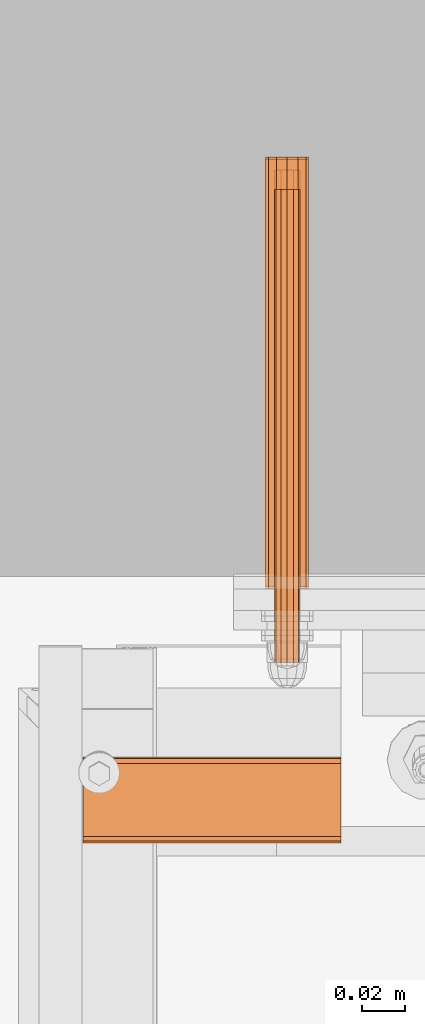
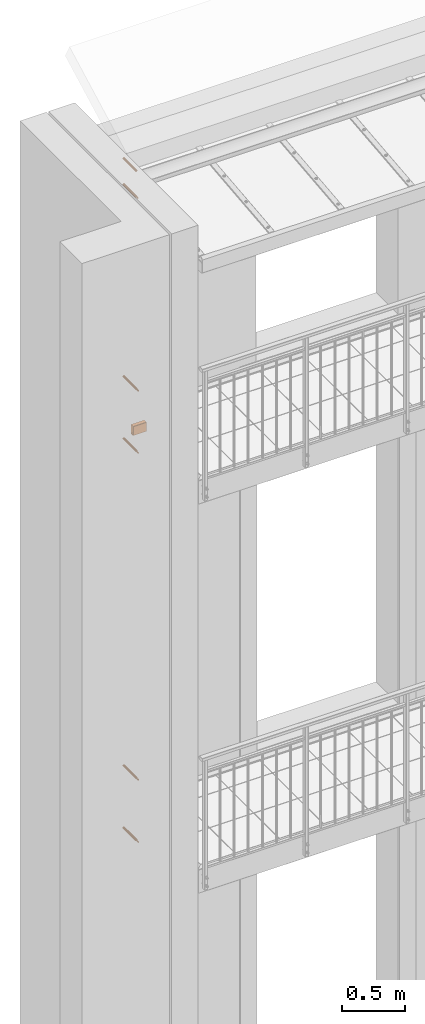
# One storey, part 93 of 162: 12 proxies.
"""IFC2X3 building model written with IfcOpenShell, lengths in millimetres."""

from ifc_helpers import new_model, entity, si_unit, converted_unit, origin_with_axes, place, context, project, spatial, faceted_brep, material, element, save


model = new_model("IFC2X3")

# Units and contexts
model_context = context("Model", 3, precision=1e-09, world=origin_with_axes())
ifc_project = project(units=[si_unit("LENGTHUNIT", "METRE", prefix="MILLI"), si_unit("AREAUNIT", "SQUARE_METRE"), si_unit("VOLUMEUNIT", "CUBIC_METRE"), converted_unit("PLANEANGLEUNIT", "DEGREE", entity("IfcPlaneAngleMeasure", 0.01745329), si_unit("PLANEANGLEUNIT", "RADIAN"), dimensions=[0, 0, 0, 0, 0, 0, 0])], contexts=[model_context])

# Site, building, storey
site_placement = place(None, origin_with_axes())
site = spatial("IfcSite", under=ifc_project, at=site_placement, Name="Hermannstra?e 1a, 60318 Frankfurt", CompositionType="ELEMENT")
building_placement = place(site_placement, origin_with_axes())
building = spatial("IfcBuilding", under=site, at=building_placement, Name="Struktur 1", CompositionType="ELEMENT")
storey_placement = place(building_placement, origin_with_axes())
storey = spatial("IfcBuildingStorey", under=building, at=storey_placement, Name="Default Storey", CompositionType="ELEMENT", Elevation=0.0)

# Proxies
ifc_material_1 = material(Name="Alu")
proxy_1_placement = place(None, origin_with_axes())
element("IfcBuildingElementProxy", 1, at=proxy_1_placement, inside=storey, material=ifc_material_1, ObjectType="-", context=model_context, shape_type="Brep", body=[
    faceted_brep([(2703.30936482, 2612.413221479, 15014.999), (2703.30936482, 2614.609373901, 15012.802847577), (2703.30936482, 2617.609373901, 15011.999), (2703.30936482, 2645.609373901, 15011.999), (2703.30936482, 2648.609373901, 15012.802847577), (2703.30936482, 2650.805526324, 15014.999), (2703.30936482, 2651.609373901, 15017.999), (2703.30936482, 2651.609373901, 15095.999), (2703.30936482, 2650.805526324, 15098.999), (2703.30936482, 2648.609373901, 15101.195152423), (2703.30936482, 2645.609373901, 15101.999), (2703.30936482, 2617.609373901, 15101.999), (2703.30936482, 2614.609373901, 15101.195152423), (2703.30936482, 2612.413221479, 15098.999), (2703.30936482, 2611.609373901, 15095.999), (2703.30936482, 2611.609373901, 15017.999), (2703.30936482, 2614.609373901, 15017.999), (2703.30936482, 2614.609373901, 15095.999), (2703.30936482, 2615.01129769, 15097.499), (2703.30936482, 2616.109373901, 15098.597076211), (2703.30936482, 2617.609373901, 15098.999), (2703.30936482, 2645.609373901, 15098.999), (2703.30936482, 2647.109373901, 15098.597076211), (2703.30936482, 2648.207450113, 15097.499), (2703.30936482, 2648.609373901, 15095.999), (2703.30936482, 2648.609373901, 15017.999), (2703.30936482, 2648.207450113, 15016.499), (2703.30936482, 2647.109373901, 15015.400923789), (2703.30936482, 2645.609373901, 15014.999), (2703.30936482, 2617.609373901, 15014.999), (2703.30936482, 2616.109373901, 15015.400923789), (2703.30936482, 2615.01129769, 15016.499), (2583.30936482, 2614.609373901, 15017.999), (2583.30936482, 2615.01129769, 15016.499), (2583.30936482, 2611.609373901, 15017.999), (2583.30936482, 2612.413221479, 15014.999), (2583.30936482, 2611.609373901, 15095.999), (2583.30936482, 2612.413221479, 15098.999), (2583.30936482, 2614.609373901, 15101.195152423), (2583.30936482, 2617.609373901, 15101.999), (2583.30936482, 2645.609373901, 15101.999), (2583.30936482, 2648.609373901, 15101.195152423), (2583.30936482, 2650.805526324, 15098.999), (2583.30936482, 2651.609373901, 15095.999), (2583.30936482, 2651.609373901, 15017.999), (2583.30936482, 2650.805526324, 15014.999), (2583.30936482, 2648.609373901, 15012.802847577), (2583.30936482, 2645.609373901, 15011.999), (2583.30936482, 2617.609373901, 15011.999), (2583.30936482, 2614.609373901, 15012.802847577), (2583.30936482, 2614.609373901, 15095.999), (2583.30936482, 2616.109373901, 15015.400923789), (2583.30936482, 2617.609373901, 15014.999), (2583.30936482, 2645.609373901, 15014.999), (2583.30936482, 2647.109373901, 15015.400923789), (2583.30936482, 2648.207450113, 15016.499), (2583.30936482, 2648.609373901, 15017.999), (2583.30936482, 2648.609373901, 15095.999), (2583.30936482, 2648.207450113, 15097.499), (2583.30936482, 2647.109373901, 15098.597076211), (2583.30936482, 2645.609373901, 15098.999), (2583.30936482, 2617.609373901, 15098.999), (2583.30936482, 2616.109373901, 15098.597076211), (2583.30936482, 2615.01129769, 15097.499)], [[[0, 1, 2, 3, 4, 5, 6, 7, 8, 9, 10, 11, 12, 13, 14, 15], [16, 17, 18, 19, 20, 21, 22, 23, 24, 25, 26, 27, 28, 29, 30, 31]], [[32, 16, 31, 33]], [[15, 34, 35, 0]], [[36, 37, 38, 39, 40, 41, 42, 43, 44, 45, 46, 47, 48, 49, 35, 34], [50, 32, 33, 51, 52, 53, 54, 55, 56, 57, 58, 59, 60, 61, 62, 63]], [[17, 16, 32, 50]], [[36, 34, 15, 14]], [[36, 14, 13, 37]], [[33, 31, 30, 51]], [[0, 35, 49, 1]], [[17, 50, 63, 18]], [[37, 13, 12, 38]], [[51, 30, 29, 52]], [[1, 49, 48, 2]], [[18, 63, 62, 19]], [[38, 12, 11, 39]], [[53, 52, 29, 28]], [[3, 2, 48, 47]], [[19, 62, 61, 20]], [[40, 39, 11, 10]], [[21, 20, 61, 60]], [[53, 28, 27, 54]], [[3, 47, 46, 4]], [[40, 10, 9, 41]], [[21, 60, 59, 22]], [[54, 27, 26, 55]], [[4, 46, 45, 5]], [[44, 6, 5, 45]], [[41, 9, 8, 42]], [[22, 59, 58, 23]], [[55, 26, 25, 56]], [[7, 6, 44, 43]], [[57, 24, 23, 58]], [[25, 24, 57, 56]], [[42, 8, 7, 43]]]),
])
ifc_material_2 = material(Name="Kunststoff")
proxy_2_placement = place(None, origin_with_axes())
element("IfcBuildingElementProxy", 2, at=proxy_2_placement, inside=storey, material=ifc_material_2, ObjectType="-", context=model_context, shape_type="Brep", body=[
    faceted_brep([(2669.649110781, 2929.609373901, 17471.999), (2673.309364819, 2929.609373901, 17475.659254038), (2678.309364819, 2929.609373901, 17476.999), (2683.309364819, 2929.609373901, 17475.659254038), (2686.969618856, 2929.609373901, 17471.999), (2688.309364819, 2929.609373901, 17466.999), (2686.969618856, 2929.609373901, 17461.999), (2683.309364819, 2929.609373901, 17458.338745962), (2678.309364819, 2929.609373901, 17456.999), (2673.309364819, 2929.609373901, 17458.338745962), (2669.649110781, 2929.609373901, 17461.999), (2668.309364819, 2929.609373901, 17466.999), (2678.309364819, 2729.609373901, 17456.999), (2673.309364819, 2729.609373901, 17458.338745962), (2683.309364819, 2729.609373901, 17458.338745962), (2686.969618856, 2729.609373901, 17461.999), (2686.969618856, 2729.609373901, 17471.999), (2683.309364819, 2729.609373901, 17475.659254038), (2688.309364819, 2729.609373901, 17466.999), (2678.309364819, 2729.609373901, 17476.999), (2673.309364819, 2729.609373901, 17475.659254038), (2669.649110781, 2729.609373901, 17471.999), (2668.309364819, 2729.609373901, 17466.999), (2669.649110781, 2729.609373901, 17461.999), (2682.559364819, 2729.609373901, 17474.360215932), (2685.670580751, 2729.609373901, 17471.249), (2686.809364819, 2729.609373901, 17466.999), (2685.670580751, 2729.609373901, 17462.749), (2682.559364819, 2729.609373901, 17459.637784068), (2678.309364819, 2729.609373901, 17458.499), (2674.059364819, 2729.609373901, 17459.637784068), (2670.948148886, 2729.609373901, 17462.749), (2669.809364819, 2729.609373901, 17466.999), (2670.948148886, 2729.609373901, 17471.249), (2674.059364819, 2729.609373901, 17474.360215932), (2678.309364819, 2729.609373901, 17475.499), (2682.559364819, 2927.609373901, 17474.360215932), (2678.309364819, 2927.609373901, 17475.499), (2685.670580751, 2927.609373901, 17471.249), (2678.309364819, 2927.609373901, 17458.499), (2674.059364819, 2927.609373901, 17459.637784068), (2682.559364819, 2927.609373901, 17459.637784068), (2670.948148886, 2927.609373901, 17462.749), (2685.670580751, 2927.609373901, 17462.749), (2686.809364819, 2927.609373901, 17466.999), (2674.059364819, 2927.609373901, 17474.360215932), (2670.948148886, 2927.609373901, 17471.249), (2669.809364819, 2927.609373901, 17466.999)], [[[0, 1, 2, 3, 4, 5, 6, 7, 8, 9, 10, 11]], [[8, 12, 13, 9]], [[7, 14, 12, 8]], [[6, 15, 14, 7]], [[16, 4, 3, 17]], [[5, 18, 15, 6]], [[17, 3, 2, 19]], [[18, 16, 17, 19, 20, 21, 22, 23, 13, 12, 14, 15], [24, 25, 26, 27, 28, 29, 30, 31, 32, 33, 34, 35]], [[18, 5, 4, 16]], [[9, 13, 23, 10]], [[19, 2, 1, 20]], [[36, 24, 35, 37]], [[24, 36, 38, 25]], [[29, 39, 40, 30]], [[39, 29, 28, 41]], [[42, 40, 39, 41, 43, 44, 38, 36, 37, 45, 46, 47]], [[10, 23, 22, 11]], [[20, 1, 0, 21]], [[37, 35, 34, 45]], [[27, 43, 41, 28]], [[26, 44, 43, 27]], [[25, 38, 44, 26]], [[11, 22, 21, 0]], [[30, 40, 42, 31]], [[45, 34, 33, 46]], [[31, 42, 47, 32]], [[46, 33, 32, 47]]]),
])
ifc_material_3 = material(Name="A4")
proxy_3_placement = place(None, origin_with_axes())
element("IfcBuildingElementProxy", 3, at=proxy_3_placement, inside=storey, material=ifc_material_3, ObjectType="-", context=model_context, shape_type="Brep", body=[
    faceted_brep([(2678.309364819, 2704.609373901, 17222.999), (2678.309364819, 2924.609373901, 17222.999), (2675.309364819, 2924.609373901, 17222.195152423), (2675.309364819, 2704.609373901, 17222.195152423), (2681.309364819, 2704.609373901, 17222.195152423), (2681.309364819, 2924.609373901, 17222.195152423), (2681.309364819, 2704.609373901, 17211.802847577), (2683.505517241, 2704.609373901, 17213.999), (2684.309364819, 2704.609373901, 17216.999), (2683.505517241, 2704.609373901, 17219.999), (2673.113212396, 2704.609373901, 17219.999), (2672.309364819, 2704.609373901, 17216.999), (2673.113212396, 2704.609373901, 17213.999), (2675.309364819, 2704.609373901, 17211.802847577), (2678.309364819, 2704.609373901, 17210.999), (2675.309364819, 2924.609373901, 17211.802847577), (2673.113212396, 2924.609373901, 17213.999), (2672.309364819, 2924.609373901, 17216.999), (2673.113212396, 2924.609373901, 17219.999), (2683.505517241, 2924.609373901, 17219.999), (2684.309364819, 2924.609373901, 17216.999), (2683.505517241, 2924.609373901, 17213.999), (2681.309364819, 2924.609373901, 17211.802847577), (2678.309364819, 2924.609373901, 17210.999)], [[[0, 1, 2, 3]], [[1, 0, 4, 5]], [[6, 7, 8, 9, 4, 0, 3, 10, 11, 12, 13, 14]], [[15, 16, 17, 18, 2, 1, 5, 19, 20, 21, 22, 23]], [[3, 2, 18, 10]], [[5, 4, 9, 19]], [[17, 11, 10, 18]], [[16, 12, 11, 17]], [[19, 9, 8, 20]], [[13, 15, 23, 14]], [[12, 16, 15, 13]], [[14, 23, 22, 6]], [[20, 8, 7, 21]], [[6, 22, 21, 7]]]),
])
proxy_4_placement = place(None, origin_with_axes())
element("IfcBuildingElementProxy", 4, at=proxy_4_placement, inside=storey, material=ifc_material_2, ObjectType="-", context=model_context, shape_type="Brep", body=[
    faceted_brep([(2673.309364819, 2929.609373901, 17208.338745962), (2669.649110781, 2929.609373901, 17211.999), (2668.309364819, 2929.609373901, 17216.999), (2669.649110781, 2929.609373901, 17221.999), (2673.309364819, 2929.609373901, 17225.659254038), (2678.309364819, 2929.609373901, 17226.999), (2683.309364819, 2929.609373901, 17225.659254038), (2686.969618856, 2929.609373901, 17221.999), (2688.309364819, 2929.609373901, 17216.999), (2686.969618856, 2929.609373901, 17211.999), (2683.309364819, 2929.609373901, 17208.338745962), (2678.309364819, 2929.609373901, 17206.999), (2678.309364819, 2729.609373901, 17226.999), (2673.309364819, 2729.609373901, 17225.659254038), (2683.309364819, 2729.609373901, 17225.659254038), (2686.969618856, 2729.609373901, 17221.999), (2686.969618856, 2729.609373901, 17211.999), (2683.309364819, 2729.609373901, 17208.338745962), (2688.309364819, 2729.609373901, 17216.999), (2678.309364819, 2729.609373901, 17206.999), (2669.649110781, 2729.609373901, 17221.999), (2668.309364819, 2729.609373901, 17216.999), (2669.649110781, 2729.609373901, 17211.999), (2673.309364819, 2729.609373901, 17208.338745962), (2682.559364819, 2729.609373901, 17209.637784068), (2682.559364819, 2927.609373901, 17209.637784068), (2678.309364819, 2927.609373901, 17208.499), (2678.309364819, 2729.609373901, 17208.499), (2685.670580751, 2729.609373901, 17212.749), (2685.670580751, 2927.609373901, 17212.749), (2678.309364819, 2927.609373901, 17225.499), (2678.309364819, 2729.609373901, 17225.499), (2674.059364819, 2729.609373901, 17224.360215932), (2674.059364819, 2927.609373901, 17224.360215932), (2682.559364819, 2927.609373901, 17224.360215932), (2682.559364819, 2729.609373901, 17224.360215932), (2670.948148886, 2927.609373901, 17221.249), (2669.809364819, 2927.609373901, 17216.999), (2670.948148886, 2927.609373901, 17212.749), (2674.059364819, 2927.609373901, 17209.637784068), (2686.809364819, 2927.609373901, 17216.999), (2685.670580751, 2927.609373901, 17221.249), (2674.059364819, 2729.609373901, 17209.637784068), (2685.670580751, 2729.609373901, 17221.249), (2686.809364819, 2729.609373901, 17216.999), (2670.948148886, 2729.609373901, 17221.249), (2670.948148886, 2729.609373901, 17212.749), (2669.809364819, 2729.609373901, 17216.999)], [[[0, 1, 2, 3, 4, 5, 6, 7, 8, 9, 10, 11]], [[12, 5, 4, 13]], [[14, 6, 5, 12]], [[15, 7, 6, 14]], [[9, 16, 17, 10]], [[18, 8, 7, 15]], [[10, 17, 19, 11]], [[16, 18, 15, 14, 12, 13, 20, 21, 22, 23, 19, 17]], [[8, 18, 16, 9]], [[13, 4, 3, 20]], [[11, 19, 23, 0]], [[24, 25, 26, 27]], [[25, 24, 28, 29]], [[30, 31, 32, 33]], [[31, 30, 34, 35]], [[33, 36, 37, 38, 39, 26, 25, 29, 40, 41, 34, 30]], [[20, 3, 2, 21]], [[0, 23, 22, 1]], [[27, 26, 39, 42]], [[41, 43, 35, 34]], [[40, 44, 43, 41]], [[29, 28, 44, 40]], [[21, 2, 1, 22]], [[33, 32, 45, 36]], [[42, 39, 38, 46]], [[36, 45, 47, 37]], [[46, 38, 37, 47]]]),
])
proxy_5_placement = place(None, origin_with_axes())
element("IfcBuildingElementProxy", 5, at=proxy_5_placement, inside=storey, material=ifc_material_2, ObjectType="-", context=model_context, shape_type="Brep", body=[
    faceted_brep([(2673.309364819, 2930.609373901, 10996.338745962), (2669.649110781, 2930.609373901, 10999.999), (2668.309364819, 2930.609373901, 11004.999), (2669.649110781, 2930.609373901, 11009.999), (2673.309364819, 2930.609373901, 11013.659254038), (2678.309364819, 2930.609373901, 11014.999), (2683.309364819, 2930.609373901, 11013.659254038), (2686.969618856, 2930.609373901, 11009.999), (2688.309364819, 2930.609373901, 11004.999), (2686.969618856, 2930.609373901, 10999.999), (2683.309364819, 2930.609373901, 10996.338745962), (2678.309364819, 2930.609373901, 10994.999), (2678.309364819, 2730.609373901, 11014.999), (2673.309364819, 2730.609373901, 11013.659254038), (2683.309364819, 2730.609373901, 11013.659254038), (2686.969618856, 2730.609373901, 11009.999), (2686.969618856, 2730.609373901, 10999.999), (2683.309364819, 2730.609373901, 10996.338745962), (2688.309364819, 2730.609373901, 11004.999), (2678.309364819, 2730.609373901, 10994.999), (2669.649110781, 2730.609373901, 11009.999), (2668.309364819, 2730.609373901, 11004.999), (2669.649110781, 2730.609373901, 10999.999), (2673.309364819, 2730.609373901, 10996.338745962), (2682.559364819, 2730.609373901, 10997.637784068), (2682.559364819, 2928.609373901, 10997.637784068), (2678.309364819, 2928.609373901, 10996.499), (2678.309364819, 2730.609373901, 10996.499), (2685.670580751, 2730.609373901, 11000.749), (2685.670580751, 2928.609373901, 11000.749), (2678.309364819, 2928.609373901, 11013.499), (2678.309364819, 2730.609373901, 11013.499), (2674.059364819, 2730.609373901, 11012.360215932), (2674.059364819, 2928.609373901, 11012.360215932), (2682.559364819, 2928.609373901, 11012.360215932), (2682.559364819, 2730.609373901, 11012.360215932), (2670.948148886, 2928.609373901, 11009.249), (2669.809364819, 2928.609373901, 11004.999), (2670.948148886, 2928.609373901, 11000.749), (2674.059364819, 2928.609373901, 10997.637784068), (2686.809364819, 2928.609373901, 11004.999), (2685.670580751, 2928.609373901, 11009.249), (2674.059364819, 2730.609373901, 10997.637784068), (2685.670580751, 2730.609373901, 11009.249), (2686.809364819, 2730.609373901, 11004.999), (2670.948148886, 2730.609373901, 11009.249), (2670.948148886, 2730.609373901, 11000.749), (2669.809364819, 2730.609373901, 11004.999)], [[[0, 1, 2, 3, 4, 5, 6, 7, 8, 9, 10, 11]], [[12, 5, 4, 13]], [[14, 6, 5, 12]], [[15, 7, 6, 14]], [[9, 16, 17, 10]], [[18, 8, 7, 15]], [[10, 17, 19, 11]], [[16, 18, 15, 14, 12, 13, 20, 21, 22, 23, 19, 17]], [[8, 18, 16, 9]], [[13, 4, 3, 20]], [[11, 19, 23, 0]], [[24, 25, 26, 27]], [[25, 24, 28, 29]], [[30, 31, 32, 33]], [[31, 30, 34, 35]], [[33, 36, 37, 38, 39, 26, 25, 29, 40, 41, 34, 30]], [[20, 3, 2, 21]], [[0, 23, 22, 1]], [[27, 26, 39, 42]], [[41, 43, 35, 34]], [[40, 44, 43, 41]], [[29, 28, 44, 40]], [[21, 2, 1, 22]], [[33, 32, 45, 36]], [[42, 39, 38, 46]], [[36, 45, 47, 37]], [[46, 38, 37, 47]]]),
])
proxy_6_placement = place(None, origin_with_axes())
element("IfcBuildingElementProxy", 6, at=proxy_6_placement, inside=storey, material=ifc_material_3, ObjectType="-", context=model_context, shape_type="Brep", body=[
    faceted_brep([(2678.309364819, 2695.609373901, 11010.999), (2678.309364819, 2915.609373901, 11010.999), (2675.309364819, 2915.609373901, 11010.195152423), (2675.309364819, 2695.609373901, 11010.195152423), (2681.309364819, 2695.609373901, 11010.195152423), (2681.309364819, 2915.609373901, 11010.195152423), (2681.309364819, 2695.609373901, 10999.802847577), (2683.505517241, 2695.609373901, 11001.999), (2684.309364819, 2695.609373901, 11004.999), (2683.505517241, 2695.609373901, 11007.999), (2673.113212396, 2695.609373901, 11007.999), (2672.309364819, 2695.609373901, 11004.999), (2673.113212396, 2695.609373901, 11001.999), (2675.309364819, 2695.609373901, 10999.802847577), (2678.309364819, 2695.609373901, 10998.999), (2675.309364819, 2915.609373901, 10999.802847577), (2673.113212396, 2915.609373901, 11001.999), (2672.309364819, 2915.609373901, 11004.999), (2673.113212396, 2915.609373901, 11007.999), (2683.505517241, 2915.609373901, 11007.999), (2684.309364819, 2915.609373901, 11004.999), (2683.505517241, 2915.609373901, 11001.999), (2681.309364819, 2915.609373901, 10999.802847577), (2678.309364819, 2915.609373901, 10998.999)], [[[0, 1, 2, 3]], [[1, 0, 4, 5]], [[6, 7, 8, 9, 4, 0, 3, 10, 11, 12, 13, 14]], [[15, 16, 17, 18, 2, 1, 5, 19, 20, 21, 22, 23]], [[3, 2, 18, 10]], [[5, 4, 9, 19]], [[17, 11, 10, 18]], [[16, 12, 11, 17]], [[19, 9, 8, 20]], [[13, 15, 23, 14]], [[12, 16, 15, 13]], [[14, 23, 22, 6]], [[20, 8, 7, 21]], [[6, 22, 21, 7]]]),
])
proxy_7_placement = place(None, origin_with_axes())
element("IfcBuildingElementProxy", 7, at=proxy_7_placement, inside=storey, material=ifc_material_3, ObjectType="-", context=model_context, shape_type="Brep", body=[
    faceted_brep([(2678.309364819, 2915.609373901, 11598.999), (2678.309364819, 2695.609373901, 11598.999), (2675.309364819, 2695.609373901, 11599.802847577), (2675.309364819, 2915.609373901, 11599.802847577), (2681.309364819, 2915.609373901, 11599.802847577), (2681.309364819, 2695.609373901, 11599.802847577), (2683.505517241, 2695.609373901, 11607.999), (2681.309364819, 2695.609373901, 11610.195152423), (2678.309364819, 2695.609373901, 11610.999), (2675.309364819, 2695.609373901, 11610.195152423), (2673.113212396, 2695.609373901, 11607.999), (2672.309364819, 2695.609373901, 11604.999), (2673.113212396, 2695.609373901, 11601.999), (2683.505517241, 2695.609373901, 11601.999), (2684.309364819, 2695.609373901, 11604.999), (2673.113212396, 2915.609373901, 11607.999), (2675.309364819, 2915.609373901, 11610.195152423), (2678.309364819, 2915.609373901, 11610.999), (2681.309364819, 2915.609373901, 11610.195152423), (2683.505517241, 2915.609373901, 11607.999), (2684.309364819, 2915.609373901, 11604.999), (2683.505517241, 2915.609373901, 11601.999), (2673.113212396, 2915.609373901, 11601.999), (2672.309364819, 2915.609373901, 11604.999)], [[[0, 1, 2, 3]], [[1, 0, 4, 5]], [[6, 7, 8, 9, 10, 11, 12, 2, 1, 5, 13, 14]], [[15, 16, 17, 18, 19, 20, 21, 4, 0, 3, 22, 23]], [[3, 2, 12, 22]], [[5, 4, 21, 13]], [[11, 23, 22, 12]], [[10, 15, 23, 11]], [[13, 21, 20, 14]], [[16, 9, 8, 17]], [[15, 10, 9, 16]], [[17, 8, 7, 18]], [[14, 20, 19, 6]], [[18, 7, 6, 19]]]),
])
proxy_8_placement = place(None, origin_with_axes())
element("IfcBuildingElementProxy", 8, at=proxy_8_placement, inside=storey, material=ifc_material_2, ObjectType="-", context=model_context, shape_type="Brep", body=[
    faceted_brep([(2669.649110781, 2930.609373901, 11609.999), (2673.309364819, 2930.609373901, 11613.659254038), (2678.309364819, 2930.609373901, 11614.999), (2683.309364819, 2930.609373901, 11613.659254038), (2686.969618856, 2930.609373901, 11609.999), (2688.309364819, 2930.609373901, 11604.999), (2686.969618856, 2930.609373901, 11599.999), (2683.309364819, 2930.609373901, 11596.338745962), (2678.309364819, 2930.609373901, 11594.999), (2673.309364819, 2930.609373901, 11596.338745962), (2669.649110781, 2930.609373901, 11599.999), (2668.309364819, 2930.609373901, 11604.999), (2678.309364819, 2730.609373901, 11594.999), (2673.309364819, 2730.609373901, 11596.338745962), (2683.309364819, 2730.609373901, 11596.338745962), (2686.969618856, 2730.609373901, 11599.999), (2686.969618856, 2730.609373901, 11609.999), (2683.309364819, 2730.609373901, 11613.659254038), (2688.309364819, 2730.609373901, 11604.999), (2678.309364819, 2730.609373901, 11614.999), (2673.309364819, 2730.609373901, 11613.659254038), (2669.649110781, 2730.609373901, 11609.999), (2668.309364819, 2730.609373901, 11604.999), (2669.649110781, 2730.609373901, 11599.999), (2682.559364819, 2730.609373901, 11612.360215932), (2685.670580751, 2730.609373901, 11609.249), (2686.809364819, 2730.609373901, 11604.999), (2685.670580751, 2730.609373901, 11600.749), (2682.559364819, 2730.609373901, 11597.637784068), (2678.309364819, 2730.609373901, 11596.499), (2674.059364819, 2730.609373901, 11597.637784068), (2670.948148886, 2730.609373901, 11600.749), (2669.809364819, 2730.609373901, 11604.999), (2670.948148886, 2730.609373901, 11609.249), (2674.059364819, 2730.609373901, 11612.360215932), (2678.309364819, 2730.609373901, 11613.499), (2682.559364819, 2928.609373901, 11612.360215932), (2678.309364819, 2928.609373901, 11613.499), (2685.670580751, 2928.609373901, 11609.249), (2678.309364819, 2928.609373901, 11596.499), (2674.059364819, 2928.609373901, 11597.637784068), (2682.559364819, 2928.609373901, 11597.637784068), (2670.948148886, 2928.609373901, 11600.749), (2685.670580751, 2928.609373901, 11600.749), (2686.809364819, 2928.609373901, 11604.999), (2674.059364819, 2928.609373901, 11612.360215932), (2670.948148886, 2928.609373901, 11609.249), (2669.809364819, 2928.609373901, 11604.999)], [[[0, 1, 2, 3, 4, 5, 6, 7, 8, 9, 10, 11]], [[8, 12, 13, 9]], [[7, 14, 12, 8]], [[6, 15, 14, 7]], [[16, 4, 3, 17]], [[5, 18, 15, 6]], [[17, 3, 2, 19]], [[18, 16, 17, 19, 20, 21, 22, 23, 13, 12, 14, 15], [24, 25, 26, 27, 28, 29, 30, 31, 32, 33, 34, 35]], [[18, 5, 4, 16]], [[9, 13, 23, 10]], [[19, 2, 1, 20]], [[36, 24, 35, 37]], [[24, 36, 38, 25]], [[29, 39, 40, 30]], [[39, 29, 28, 41]], [[42, 40, 39, 41, 43, 44, 38, 36, 37, 45, 46, 47]], [[10, 23, 22, 11]], [[20, 1, 0, 21]], [[37, 35, 34, 45]], [[27, 43, 41, 28]], [[26, 44, 43, 27]], [[25, 38, 44, 26]], [[11, 22, 21, 0]], [[30, 40, 42, 31]], [[45, 34, 33, 46]], [[31, 42, 47, 32]], [[46, 33, 32, 47]]]),
])
proxy_9_placement = place(None, origin_with_axes())
element("IfcBuildingElementProxy", 9, at=proxy_9_placement, inside=storey, material=ifc_material_3, ObjectType="-", context=model_context, shape_type="Brep", body=[
    faceted_brep([(2678.310071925, 2915.610081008, 15355.999), (2678.310071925, 2695.610081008, 15355.999), (2675.310071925, 2695.610081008, 15356.802847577), (2675.310071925, 2915.610081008, 15356.802847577), (2681.310071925, 2915.610081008, 15356.802847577), (2681.310071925, 2695.610081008, 15356.802847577), (2683.506224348, 2695.610081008, 15364.999), (2681.310071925, 2695.610081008, 15367.195152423), (2678.310071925, 2695.610081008, 15367.999), (2675.310071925, 2695.610081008, 15367.195152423), (2673.113919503, 2695.610081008, 15364.999), (2672.310071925, 2695.610081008, 15361.999), (2673.113919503, 2695.610081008, 15358.999), (2683.506224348, 2695.610081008, 15358.999), (2684.310071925, 2695.610081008, 15361.999), (2673.113919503, 2915.610081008, 15364.999), (2675.310071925, 2915.610081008, 15367.195152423), (2678.310071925, 2915.610081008, 15367.999), (2681.310071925, 2915.610081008, 15367.195152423), (2683.506224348, 2915.610081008, 15364.999), (2684.310071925, 2915.610081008, 15361.999), (2683.506224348, 2915.610081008, 15358.999), (2673.113919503, 2915.610081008, 15358.999), (2672.310071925, 2915.610081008, 15361.999)], [[[0, 1, 2, 3]], [[1, 0, 4, 5]], [[6, 7, 8, 9, 10, 11, 12, 2, 1, 5, 13, 14]], [[15, 16, 17, 18, 19, 20, 21, 4, 0, 3, 22, 23]], [[3, 2, 12, 22]], [[5, 4, 21, 13]], [[11, 23, 22, 12]], [[10, 15, 23, 11]], [[13, 21, 20, 14]], [[16, 9, 8, 17]], [[15, 10, 9, 16]], [[17, 8, 7, 18]], [[14, 20, 19, 6]], [[18, 7, 6, 19]]]),
])
proxy_10_placement = place(None, origin_with_axes())
element("IfcBuildingElementProxy", 10, at=proxy_10_placement, inside=storey, material=ifc_material_2, ObjectType="-", context=model_context, shape_type="Brep", body=[
    faceted_brep([(2669.649817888, 2930.610081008, 15366.999), (2673.310071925, 2930.610081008, 15370.659254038), (2678.310071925, 2930.610081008, 15371.999), (2683.310071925, 2930.610081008, 15370.659254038), (2686.970325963, 2930.610081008, 15366.999), (2688.310071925, 2930.610081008, 15361.999), (2686.970325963, 2930.610081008, 15356.999), (2683.310071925, 2930.610081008, 15353.338745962), (2678.310071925, 2930.610081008, 15351.999), (2673.310071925, 2930.610081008, 15353.338745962), (2669.649817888, 2930.610081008, 15356.999), (2668.310071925, 2930.610081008, 15361.999), (2678.310071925, 2730.610081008, 15351.999), (2673.310071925, 2730.610081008, 15353.338745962), (2683.310071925, 2730.610081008, 15353.338745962), (2686.970325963, 2730.610081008, 15356.999), (2686.970325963, 2730.610081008, 15366.999), (2683.310071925, 2730.610081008, 15370.659254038), (2688.310071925, 2730.610081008, 15361.999), (2678.310071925, 2730.610081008, 15371.999), (2673.310071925, 2730.610081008, 15370.659254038), (2669.649817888, 2730.610081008, 15366.999), (2668.310071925, 2730.610081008, 15361.999), (2669.649817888, 2730.610081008, 15356.999), (2682.560071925, 2730.610081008, 15369.360215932), (2685.671287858, 2730.610081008, 15366.249), (2686.810071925, 2730.610081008, 15361.999), (2685.671287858, 2730.610081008, 15357.749), (2682.560071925, 2730.610081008, 15354.637784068), (2678.310071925, 2730.610081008, 15353.499), (2674.060071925, 2730.610081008, 15354.637784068), (2670.948855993, 2730.610081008, 15357.749), (2669.810071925, 2730.610081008, 15361.999), (2670.948855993, 2730.610081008, 15366.249), (2674.060071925, 2730.610081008, 15369.360215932), (2678.310071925, 2730.610081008, 15370.499), (2682.560071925, 2928.610081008, 15369.360215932), (2678.310071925, 2928.610081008, 15370.499), (2685.671287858, 2928.610081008, 15366.249), (2678.310071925, 2928.610081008, 15353.499), (2674.060071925, 2928.610081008, 15354.637784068), (2682.560071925, 2928.610081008, 15354.637784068), (2670.948855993, 2928.610081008, 15357.749), (2685.671287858, 2928.610081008, 15357.749), (2686.810071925, 2928.610081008, 15361.999), (2674.060071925, 2928.610081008, 15369.360215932), (2670.948855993, 2928.610081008, 15366.249), (2669.810071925, 2928.610081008, 15361.999)], [[[0, 1, 2, 3, 4, 5, 6, 7, 8, 9, 10, 11]], [[8, 12, 13, 9]], [[7, 14, 12, 8]], [[6, 15, 14, 7]], [[16, 4, 3, 17]], [[5, 18, 15, 6]], [[17, 3, 2, 19]], [[18, 16, 17, 19, 20, 21, 22, 23, 13, 12, 14, 15], [24, 25, 26, 27, 28, 29, 30, 31, 32, 33, 34, 35]], [[18, 5, 4, 16]], [[9, 13, 23, 10]], [[19, 2, 1, 20]], [[36, 24, 35, 37]], [[24, 36, 38, 25]], [[29, 39, 40, 30]], [[39, 29, 28, 41]], [[42, 40, 39, 41, 43, 44, 38, 36, 37, 45, 46, 47]], [[10, 23, 22, 11]], [[20, 1, 0, 21]], [[37, 35, 34, 45]], [[27, 43, 41, 28]], [[26, 44, 43, 27]], [[25, 38, 44, 26]], [[11, 22, 21, 0]], [[30, 40, 42, 31]], [[45, 34, 33, 46]], [[31, 42, 47, 32]], [[46, 33, 32, 47]]]),
])
proxy_11_placement = place(None, origin_with_axes())
element("IfcBuildingElementProxy", 11, at=proxy_11_placement, inside=storey, material=ifc_material_2, ObjectType="-", context=model_context, shape_type="Brep", body=[
    faceted_brep([(2673.310071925, 2930.610081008, 14753.338745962), (2669.649817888, 2930.610081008, 14756.999), (2668.310071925, 2930.610081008, 14761.999), (2669.649817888, 2930.610081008, 14766.999), (2673.310071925, 2930.610081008, 14770.659254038), (2678.310071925, 2930.610081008, 14771.999), (2683.310071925, 2930.610081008, 14770.659254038), (2686.970325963, 2930.610081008, 14766.999), (2688.310071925, 2930.610081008, 14761.999), (2686.970325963, 2930.610081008, 14756.999), (2683.310071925, 2930.610081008, 14753.338745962), (2678.310071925, 2930.610081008, 14751.999), (2678.310071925, 2730.610081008, 14771.999), (2673.310071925, 2730.610081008, 14770.659254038), (2683.310071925, 2730.610081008, 14770.659254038), (2686.970325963, 2730.610081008, 14766.999), (2686.970325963, 2730.610081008, 14756.999), (2683.310071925, 2730.610081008, 14753.338745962), (2688.310071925, 2730.610081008, 14761.999), (2678.310071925, 2730.610081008, 14751.999), (2669.649817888, 2730.610081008, 14766.999), (2668.310071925, 2730.610081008, 14761.999), (2669.649817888, 2730.610081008, 14756.999), (2673.310071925, 2730.610081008, 14753.338745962), (2682.560071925, 2730.610081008, 14754.637784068), (2682.560071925, 2928.610081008, 14754.637784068), (2678.310071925, 2928.610081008, 14753.499), (2678.310071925, 2730.610081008, 14753.499), (2685.671287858, 2730.610081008, 14757.749), (2685.671287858, 2928.610081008, 14757.749), (2678.310071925, 2928.610081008, 14770.499), (2678.310071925, 2730.610081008, 14770.499), (2674.060071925, 2730.610081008, 14769.360215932), (2674.060071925, 2928.610081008, 14769.360215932), (2682.560071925, 2928.610081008, 14769.360215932), (2682.560071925, 2730.610081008, 14769.360215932), (2670.948855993, 2928.610081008, 14766.249), (2669.810071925, 2928.610081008, 14761.999), (2670.948855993, 2928.610081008, 14757.749), (2674.060071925, 2928.610081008, 14754.637784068), (2686.810071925, 2928.610081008, 14761.999), (2685.671287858, 2928.610081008, 14766.249), (2674.060071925, 2730.610081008, 14754.637784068), (2685.671287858, 2730.610081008, 14766.249), (2686.810071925, 2730.610081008, 14761.999), (2670.948855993, 2730.610081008, 14766.249), (2670.948855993, 2730.610081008, 14757.749), (2669.810071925, 2730.610081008, 14761.999)], [[[0, 1, 2, 3, 4, 5, 6, 7, 8, 9, 10, 11]], [[12, 5, 4, 13]], [[14, 6, 5, 12]], [[15, 7, 6, 14]], [[9, 16, 17, 10]], [[18, 8, 7, 15]], [[10, 17, 19, 11]], [[16, 18, 15, 14, 12, 13, 20, 21, 22, 23, 19, 17]], [[8, 18, 16, 9]], [[13, 4, 3, 20]], [[11, 19, 23, 0]], [[24, 25, 26, 27]], [[25, 24, 28, 29]], [[30, 31, 32, 33]], [[31, 30, 34, 35]], [[33, 36, 37, 38, 39, 26, 25, 29, 40, 41, 34, 30]], [[20, 3, 2, 21]], [[0, 23, 22, 1]], [[27, 26, 39, 42]], [[41, 43, 35, 34]], [[40, 44, 43, 41]], [[29, 28, 44, 40]], [[21, 2, 1, 22]], [[33, 32, 45, 36]], [[42, 39, 38, 46]], [[36, 45, 47, 37]], [[46, 38, 37, 47]]]),
])
proxy_12_placement = place(None, origin_with_axes())
element("IfcBuildingElementProxy", 12, at=proxy_12_placement, inside=storey, material=ifc_material_3, ObjectType="-", context=model_context, shape_type="Brep", body=[
    faceted_brep([(2678.310071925, 2695.610081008, 14767.999), (2678.310071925, 2915.610081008, 14767.999), (2675.310071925, 2915.610081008, 14767.195152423), (2675.310071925, 2695.610081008, 14767.195152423), (2681.310071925, 2695.610081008, 14767.195152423), (2681.310071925, 2915.610081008, 14767.195152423), (2681.310071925, 2695.610081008, 14756.802847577), (2683.506224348, 2695.610081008, 14758.999), (2684.310071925, 2695.610081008, 14761.999), (2683.506224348, 2695.610081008, 14764.999), (2673.113919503, 2695.610081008, 14764.999), (2672.310071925, 2695.610081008, 14761.999), (2673.113919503, 2695.610081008, 14758.999), (2675.310071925, 2695.610081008, 14756.802847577), (2678.310071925, 2695.610081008, 14755.999), (2675.310071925, 2915.610081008, 14756.802847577), (2673.113919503, 2915.610081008, 14758.999), (2672.310071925, 2915.610081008, 14761.999), (2673.113919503, 2915.610081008, 14764.999), (2683.506224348, 2915.610081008, 14764.999), (2684.310071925, 2915.610081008, 14761.999), (2683.506224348, 2915.610081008, 14758.999), (2681.310071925, 2915.610081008, 14756.802847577), (2678.310071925, 2915.610081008, 14755.999)], [[[0, 1, 2, 3]], [[1, 0, 4, 5]], [[6, 7, 8, 9, 4, 0, 3, 10, 11, 12, 13, 14]], [[15, 16, 17, 18, 2, 1, 5, 19, 20, 21, 22, 23]], [[3, 2, 18, 10]], [[5, 4, 9, 19]], [[17, 11, 10, 18]], [[16, 12, 11, 17]], [[19, 9, 8, 20]], [[13, 15, 23, 14]], [[12, 16, 15, 13]], [[14, 23, 22, 6]], [[20, 8, 7, 21]], [[6, 22, 21, 7]]]),
])

save(model, "model.ifc")
